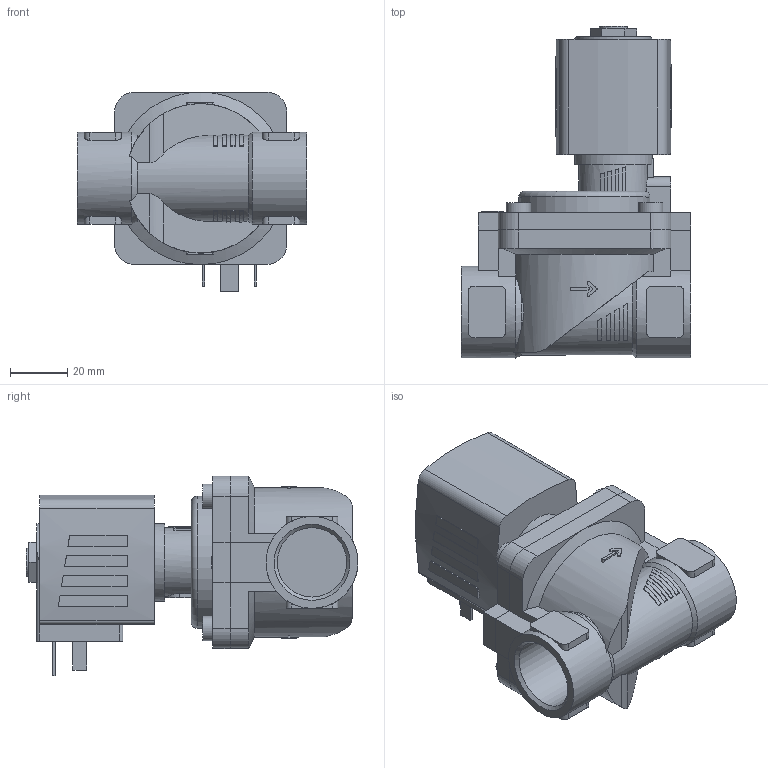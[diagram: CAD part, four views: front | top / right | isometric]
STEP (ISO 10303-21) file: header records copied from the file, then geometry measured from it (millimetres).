
FILE_DESCRIPTION(/* description */ ('STEP AP214'),/* implementation_level */ '2;1');
FILE_NAME(/* name */ '6281-274558-2_2-Way_Solenoid_Valve__Servo-assisted__General_Purpose',/* time_stamp */ '2024-05-23T06:50:15+02:00',/* author */ ('License CC BY-ND 4.0'),/* organization */ ('CADENAS'),/* preprocessor_version */ 'ST-DEVELOPER v19.3',/* originating_system */ 'PARTsolutions',/* authorisation */ ' ');
FILE_SCHEMA (('AUTOMOTIVE_DESIGN {1 0 10303 214 3 1 1}'));
Length unit declared in the file: millimetre
Products named in the file (4): 6281-274558-2/2-Way Solenoid Valve, Servo-assisted, General Purpose; 5281ev200MS2/2-Wege-Magnetventil mit Servomembran-Deckel   ; 6213-20G3/4MS-Gehaeuse-; AC10ex-6NA38-Plan-Coil
Assembly tree (3 placements, depth 2):
  6281-274558-2/2-Way Solenoid Valve, Servo-assisted, General Purpose
    5281ev200MS2/2-Wege-Magnetventil mit Servomembran-Deckel   
    6213-20G3/4MS-Gehaeuse-
    AC10ex-6NA38-Plan-Coil
Bounding box: 80 x 115.5 x 69.5 mm (x, y, z)
Volume: 217948.8 mm3; surface area: 44258.3 mm2
Topology: 3 solids, 3 shells, 332 faces, 843 edges, 556 vertices
Faces by surface type: plane 229, cylinder 87, cone 15, torus 1
Full cylindrical faces by diameter (mm): 2.013 x1, 8.5 x4, 9.74 x1, 24.117 x2, 27 x1, 32 x1
Entity records: 11276 total; most frequent: CARTESIAN_POINT 1969, DIRECTION 1682, ORIENTED_EDGE 1646, EDGE_CURVE 823, AXIS2_PLACEMENT_3D 590, VERTEX_POINT 549, LINE 502, VECTOR 502
